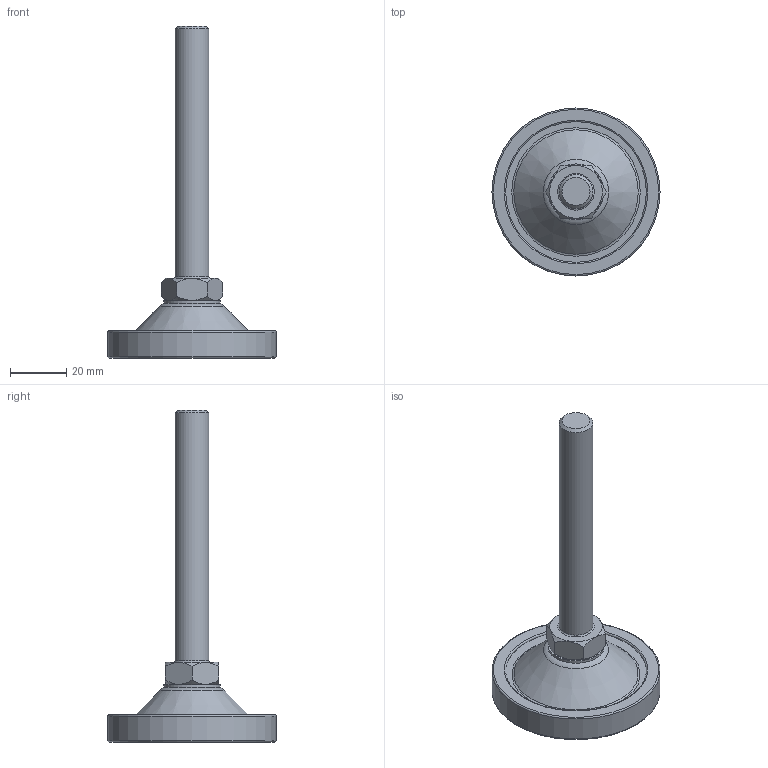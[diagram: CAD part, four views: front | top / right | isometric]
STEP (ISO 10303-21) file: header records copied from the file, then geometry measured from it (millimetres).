
FILE_DESCRIPTION(/* description */ (''),/* implementation_level */ '2;1');
FILE_NAME(/* name */ 'D:\조절자\PFR\PFR-M12-90L.stp',/* time_stamp */ '2016-03-14T15:06:14+09:00',/* author */ ('GS-DT-1-001'),/* organization */ (''),/* preprocessor_version */ 'ST-DEVELOPER v15.6',/* originating_system */ 'Autodesk Inventor LT ',/* authorisation */ '');
FILE_SCHEMA (('AUTOMOTIVE_DESIGN { 1 0 10303 214 3 1 1 }'));
Length unit declared in the file: millimetre
Products named in the file (1): PFR-M12-90L
Bounding box: 60 x 60 x 118.5 mm (x, y, z)
Volume: 36349.6 mm3; surface area: 20702.5 mm2
Topology: 5 solids, 5 shells, 69 faces, 126 edges, 77 vertices
Faces by surface type: plane 26, torus 20, cone 13, cylinder 10
Full cylindrical faces by diameter (mm): 5.153 x1, 6 x1, 6.2 x2, 12 x2, 20 x1, 54 x1, 54.2 x1, 60 x1
Entity records: 1438 total; most frequent: DIRECTION 264, CARTESIAN_POINT 242, ORIENTED_EDGE 154, AXIS2_PLACEMENT_3D 129, EDGE_LOOP 126, EDGE_CURVE 77, VERTEX_POINT 71, FACE_OUTER_BOUND 69
